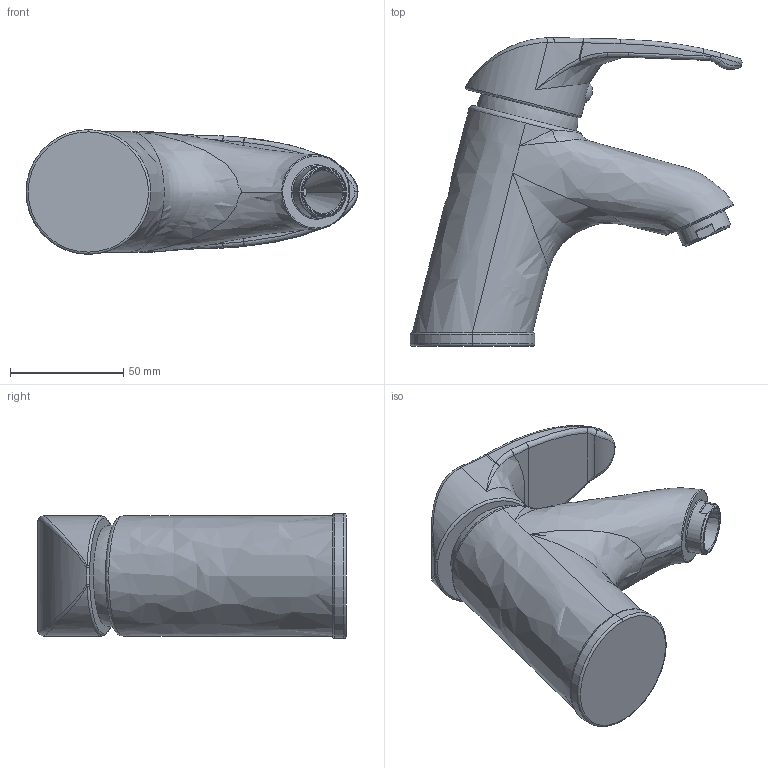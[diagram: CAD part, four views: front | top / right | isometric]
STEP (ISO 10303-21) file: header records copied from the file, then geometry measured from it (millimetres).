
FILE_DESCRIPTION (( 'STEP AP203' ), '1' );
FILE_NAME ('39CR205CAKM.STEP', '2020-04-10T14:27:31', ( '' ), ( '' ), 'SwSTEP 2.0', 'SolidWorks 2018', '' );
FILE_SCHEMA (( 'CONFIG_CONTROL_DESIGN' ));
Length unit declared in the file: millimetre
Products named in the file (1): 39CR205CAKM
Bounding box: 146.33 x 135.97 x 55 mm (x, y, z)
Volume: 389731.7 mm3; surface area: 41938.7 mm2
Topology: 1 solids, 1 shells, 113 faces, 276 edges, 163 vertices
Faces by surface type: bspline 53, cylinder 21, torus 16, plane 16, cone 4, sphere 3
Entity records: 7846 total; most frequent: CARTESIAN_POINT 5588, ORIENTED_EDGE 538, DIRECTION 343, EDGE_CURVE 269, VERTEX_POINT 163, AXIS2_PLACEMENT_3D 152, B_SPLINE_CURVE_WITH_KNOTS 132, EDGE_LOOP 118
